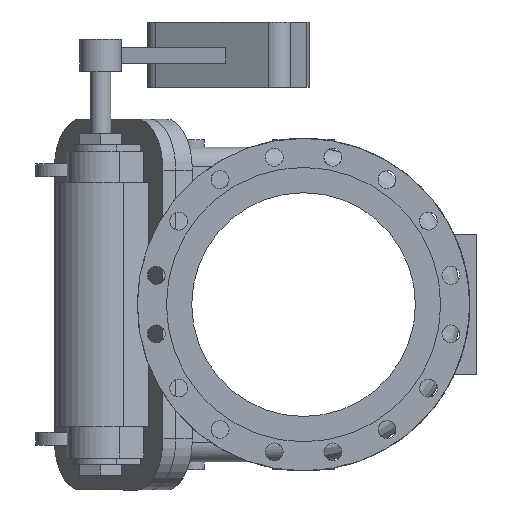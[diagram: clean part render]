
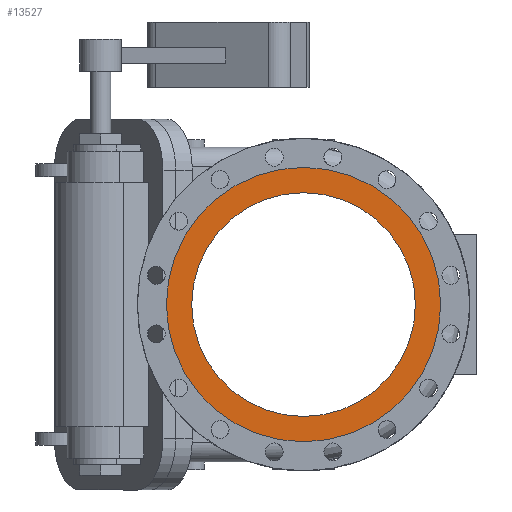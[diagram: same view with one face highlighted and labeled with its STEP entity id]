
A CAD part, left-side view. The second image highlights one B-rep face of the part: STEP entity #13527.
In plain terms, the highlighted planar face has unit normal (-1, 0, 0).
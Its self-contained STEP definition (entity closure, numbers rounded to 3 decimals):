
#105 = AXIS2_PLACEMENT_3D ( 'NONE', #3565, #3574, #3575 ) ;
#297 = AXIS2_PLACEMENT_3D ( 'NONE', #17330, #17332, #17334 ) ;
#319 = AXIS2_PLACEMENT_3D ( 'NONE', #17581, #17582, #17584 ) ;
#3565 = CARTESIAN_POINT ( 'NONE',  ( -800., 0., 0. ) ) ;
#3569 = PLANE ( 'NONE',  #105 ) ;
#3574 = DIRECTION ( 'NONE',  ( 1., 0., 0. ) ) ;
#3575 = DIRECTION ( 'NONE',  ( 0., 0., -1. ) ) ;
#11697 = EDGE_LOOP ( 'NONE', ( #12093 ) ) ;
#11727 = EDGE_LOOP ( 'NONE', ( #11885 ) ) ;
#11885 = ORIENTED_EDGE ( 'NONE', *, *, #28239, .F. ) ;
#12093 = ORIENTED_EDGE ( 'NONE', *, *, #28282, .T. ) ;
#13527 = ADVANCED_FACE ( 'NONE', ( #19905, #19908 ), #3569, .F. ) ;
#14808 = CIRCLE ( 'NONE', #297, 175. ) ;
#14863 = CIRCLE ( 'NONE', #319, 214.5 ) ;
#15089 = VERTEX_POINT ( 'NONE', #18082 ) ;
#15106 = VERTEX_POINT ( 'NONE', #18099 ) ;
#17330 = CARTESIAN_POINT ( 'NONE',  ( -800., 0., 0. ) ) ;
#17332 = DIRECTION ( 'NONE',  ( -1., 0., 0. ) ) ;
#17334 = DIRECTION ( 'NONE',  ( 0., 0., 1. ) ) ;
#17581 = CARTESIAN_POINT ( 'NONE',  ( -800., 0., 0. ) ) ;
#17582 = DIRECTION ( 'NONE',  ( -1., 0., 0. ) ) ;
#17584 = DIRECTION ( 'NONE',  ( 0., 0., 1. ) ) ;
#18082 = CARTESIAN_POINT ( 'NONE',  ( -800., 0., 175. ) ) ;
#18099 = CARTESIAN_POINT ( 'NONE',  ( -800., 0., 214.5 ) ) ;
#19905 = FACE_OUTER_BOUND ( 'NONE', #11697, .T. ) ;
#19908 = FACE_BOUND ( 'NONE', #11727, .T. ) ;
#28239 = EDGE_CURVE ( 'NONE', #15089, #15089, #14808, .T. ) ;
#28282 = EDGE_CURVE ( 'NONE', #15106, #15106, #14863, .T. ) ;
